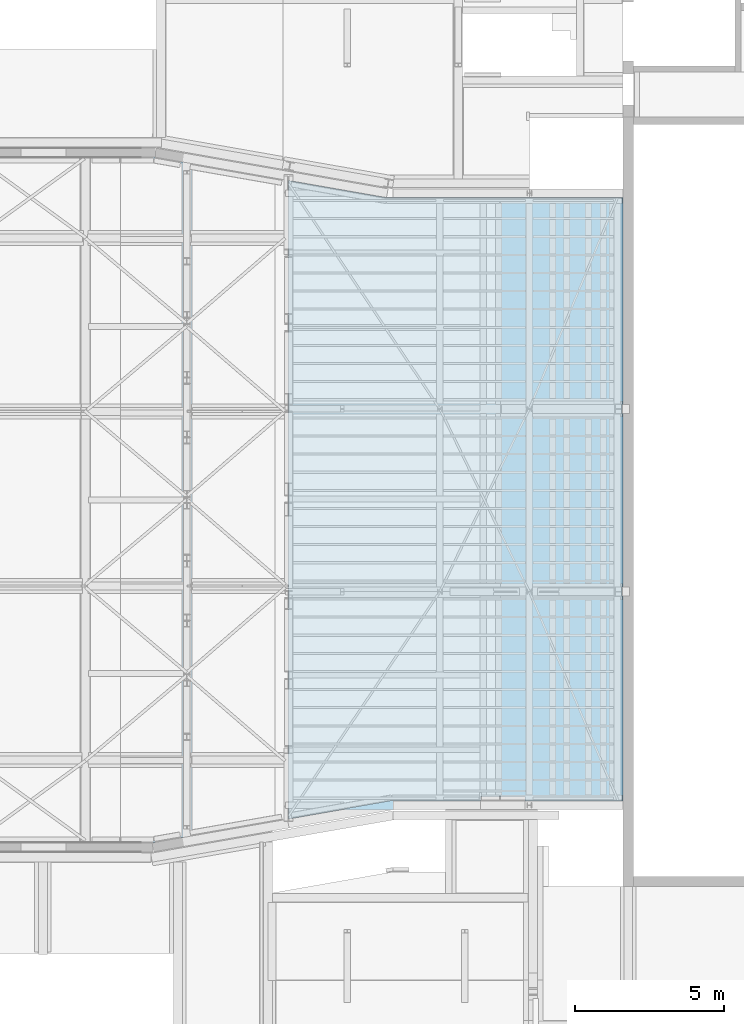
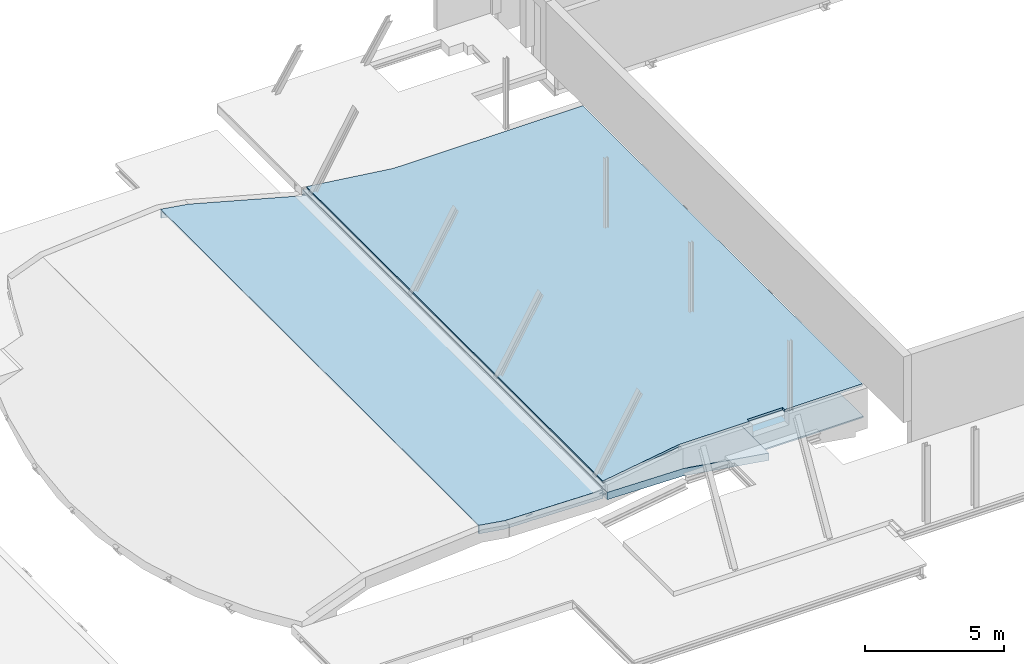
# One storey, part 48 of 50: 4 slabs.
"""IFC2X3 building model written with IfcOpenShell, lengths in millimetres."""

from ifc_helpers import new_model, entity, si_unit, converted_unit, derived_unit, direction, frame, origin, place, context, subcontext, project, spatial, faceted_brep, material, type_object, element, save


model = new_model("IFC2X3")

# Units and contexts
model_context = context("Model", 3, precision=0.01, world=origin(), true_north=direction((6.12303176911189e-17, 1.0)))
body_context = subcontext(model_context, "Body", "Model", "MODEL_VIEW")
ifc_project = project(units=[si_unit("LENGTHUNIT", "METRE", prefix="MILLI"), si_unit("AREAUNIT", "SQUARE_METRE", prefix="MILLI"), si_unit("VOLUMEUNIT", "CUBIC_METRE"), converted_unit("PLANEANGLEUNIT", "DEGREE", entity("IfcRatioMeasure", 0.0174532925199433), si_unit("PLANEANGLEUNIT", "RADIAN"), dimensions=[0, 0, 0, 0, 0, 0, 0]), si_unit("MASSUNIT", "GRAM", prefix="KILO"), derived_unit("MASSDENSITYUNIT", [(si_unit("MASSUNIT", "GRAM", prefix="KILO"), 1), (si_unit("LENGTHUNIT", "METRE"), -3)]), derived_unit("MOMENTOFINERTIAUNIT", [(si_unit("LENGTHUNIT", "METRE"), 4)]), si_unit("TIMEUNIT", "SECOND"), si_unit("FREQUENCYUNIT", "HERTZ"), si_unit("THERMODYNAMICTEMPERATUREUNIT", "DEGREE_CELSIUS"), derived_unit("THERMALTRANSMITTANCEUNIT", [(si_unit("MASSUNIT", "GRAM", prefix="KILO"), 1), (si_unit("THERMODYNAMICTEMPERATUREUNIT", "KELVIN"), -1), (si_unit("TIMEUNIT", "SECOND"), -3)]), derived_unit("VOLUMETRICFLOWRATEUNIT", [(si_unit("LENGTHUNIT", "METRE"), 3), (si_unit("TIMEUNIT", "SECOND"), -1)]), si_unit("ELECTRICCURRENTUNIT", "AMPERE"), si_unit("ELECTRICVOLTAGEUNIT", "VOLT"), si_unit("POWERUNIT", "WATT"), si_unit("FORCEUNIT", "NEWTON", prefix="KILO"), si_unit("ILLUMINANCEUNIT", "LUX"), si_unit("LUMINOUSFLUXUNIT", "LUMEN"), si_unit("LUMINOUSINTENSITYUNIT", "CANDELA"), derived_unit("USERDEFINED", [(si_unit("MASSUNIT", "GRAM", prefix="KILO"), -1), (si_unit("LENGTHUNIT", "METRE"), -2), (si_unit("TIMEUNIT", "SECOND"), 3), (si_unit("LUMINOUSFLUXUNIT", "LUMEN"), 1)]), derived_unit("LINEARVELOCITYUNIT", [(si_unit("LENGTHUNIT", "METRE"), 1), (si_unit("TIMEUNIT", "SECOND"), -1)]), si_unit("PRESSUREUNIT", "PASCAL"), derived_unit("USERDEFINED", [(si_unit("LENGTHUNIT", "METRE"), -2), (si_unit("MASSUNIT", "GRAM", prefix="KILO"), 1), (si_unit("TIMEUNIT", "SECOND"), -2)]), derived_unit("LINEARFORCEUNIT", [(si_unit("MASSUNIT", "GRAM", prefix="KILO"), 1), (si_unit("LENGTHUNIT", "METRE"), 1), (si_unit("TIMEUNIT", "SECOND"), -2), (si_unit("LENGTHUNIT", "METRE"), -1)]), derived_unit("PLANARFORCEUNIT", [(si_unit("MASSUNIT", "GRAM", prefix="KILO"), 1), (si_unit("LENGTHUNIT", "METRE"), 1), (si_unit("TIMEUNIT", "SECOND"), -2), (si_unit("LENGTHUNIT", "METRE"), -2)])], contexts=[model_context])

# Site, building, storey
site_placement = place(None, origin())
site = spatial("IfcSite", under=ifc_project, at=site_placement, Name="Theater aan de Parade", CompositionType="ELEMENT")
building_placement = place(site_placement, origin())
building = spatial("IfcBuilding", under=site, at=building_placement, Name="Theater aan de Parade", CompositionType="ELEMENT")
storey_placement = place(building_placement, frame((0.0, 0.0, 15820.0)))
storey = spatial("IfcBuildingStorey", under=building, at=storey_placement, Name="04 vierde verdieping", CompositionType="ELEMENT", Elevation=15820.0)

# Slabs
ifc_material = material(Name="00_PBT_MAT_beton t.p.g._C30/37")
slab_type_1 = type_object("IfcSlabType", Name="Floor:28_PBT_FL_druklaag_d=50 (=370)_C30/37", PredefinedType="FLOOR")
slab_1_placement = place(storey_placement, origin())
element("IfcSlab", 1, at=slab_1_placement, inside=storey, type_object=slab_type_1, material=ifc_material, Name="Floor:28_PBT_FL_druklaag_d=50 (=370)_C30/37", ObjectType="Floor:28_PBT_FL_druklaag_d=50 (=370)_C30/37", PredefinedType="FLOOR", context=body_context, shape_type="Brep", body=[
    faceted_brep([(52570.0, 21153.2598512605, 1370.21781557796), (52570.0, 43701.7401521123, 1370.21781863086), (51665.657972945, 43860.0, 1513.45157536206), (50514.5655519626, 43860.0, 1695.76677291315), (50514.5655519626, 43910.0, 1695.76677291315), (51670.0, 43910.0, 1512.76386557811), (52722.7931876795, 43725.7611921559, 1346.01774294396), (52722.7931876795, 32113.9669114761, 1346.01774294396), (52722.7931876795, 21129.2388079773, 1346.01774294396), (51584.2857135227, 20930.0, 1526.33967998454), (50514.5655519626, 20930.0, 1695.76677291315), (50514.5655519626, 20980.0, 1695.76677291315), (51579.943687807, 20980.0, 1527.02738955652), (55973.3747485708, 41348.5633673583, 831.176007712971), (56143.3747485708, 43127.1594189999, 804.250642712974), (55973.3747485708, 41048.5633673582, 831.176007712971), (55973.3747292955, 43106.1495711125, 831.176010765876), (52910.0, 41048.5633673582, 1316.36708557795), (52910.0, 41348.5633673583, 1316.36708557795), (52887.0626897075, 43697.014029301, 1320.0), (52910.0, 35539.5120085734, 1316.36708872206), (52910.0, 35239.5120085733, 1316.36708557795), (52910.0, 29687.9879914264, 1316.36708872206), (52887.0626897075, 21157.9859708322, 1320.0), (52910.0, 29387.9879914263, 1316.36708557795), (55973.3747485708, 29387.9879914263, 831.176007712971), (52910.0, 23858.9366326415, 1316.36708872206), (52910.0, 23558.9366326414, 1316.36708557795), (55973.3747485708, 23558.9366326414, 831.176007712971), (52910.0, 21212.7598478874, 1316.36708863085), (52925.3319498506, 23858.9366326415, 1637.92771408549), (52925.3319498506, 23558.9366326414, 1637.92771408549), (55973.3747485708, 23558.9366326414, 1155.1649794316), (55973.3747485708, 21748.8504322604, 1155.1649794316), (52910.0, 21212.7598512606, 1640.35605729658), (52910.0, 41048.5633673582, 1640.35605729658), (55973.3747485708, 41048.5633673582, 1155.1649794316), (55973.3747485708, 35539.5120085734, 1155.1649794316), (52945.0857164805, 35539.5120085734, 1634.79902363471), (52945.0857164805, 35239.5120085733, 1634.7990236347), (55973.3747485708, 35239.5120085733, 1155.1649794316), (55973.3747485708, 29687.9879914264, 1155.1649794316), (52945.0857164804, 29687.9879914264, 1634.79902363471), (52945.0857164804, 29387.9879914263, 1634.79902363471), (55973.3747485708, 29387.9879914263, 1155.1649794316), (55973.3747485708, 23858.9366326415, 1155.1649794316), (55973.3747485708, 43106.1495677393, 1155.1649794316), (55973.3747485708, 41348.5633673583, 1155.1649794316), (52910.0, 41348.5633673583, 1640.35605729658), (52910.0, 43642.2401487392, 1640.35605729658), (52570.0, 21153.2598512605, 1694.20678729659), (51579.9437070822, 20980.0, 1851.01635822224), (50514.5655519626, 20980.0, 2019.75574463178), (50514.5655519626, 43860.0, 2019.75574463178), (51665.6579927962, 43860.0, 1837.44054393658), (52570.0, 43701.7401487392, 1694.20678729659), (52910.0, 43642.2401487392, 1316.36721405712), (52910.0, 23858.9366326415, 1541.12559249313), (52910.0, 29387.9879914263, 1413.27652806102), (52910.0, 29687.9879914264, 1413.27652806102), (52910.0, 35239.5120085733, 1413.27652806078), (52910.0, 35539.5120085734, 1413.27652806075), (52910.0, 23558.9366326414, 1541.12559249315), (55973.3747485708, 21748.8504322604, 831.176136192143), (55973.3747485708, 23858.9366326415, 831.176136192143), (55973.3747485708, 35239.5120085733, 831.176007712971), (55973.3747485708, 29687.9879914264, 831.176136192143), (55973.3747485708, 35539.5120085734, 831.176136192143), (56143.3747485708, 21727.8405811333, 804.250642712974), (50514.5655519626, 20930.0, 2070.37887290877), (51584.2857135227, 20930.0, 1900.95177998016), (55684.0135116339, 21647.4523646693, 1251.61844254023), (56136.3747485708, 21726.6155811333, 1179.9714342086), (56136.3747485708, 43128.3844189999, 1179.97143420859), (55684.013511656, 43207.54763546, 1251.61844253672), (51670.0, 43910.0, 1887.37596557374), (50514.5655519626, 43910.0, 2070.37887290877), (56143.3747485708, 43127.1594189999, 1065.0), (56143.3747485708, 21727.8405811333, 1065.0), (52889.1873742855, 43696.6422094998, 1320.0), (52889.1873742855, 43696.6422094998, 1340.5), (52771.9373742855, 43717.1609594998, 1340.5), (52766.8802845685, 43718.0459502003, 1342.93536605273), (52761.8231948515, 43718.9309409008, 1345.37073210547), (52756.3255595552, 43719.8930270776, 1348.01825372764), (52750.8279242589, 43720.8551132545, 1350.66577534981), (52748.7004964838, 43721.2274131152, 1356.74561462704), (52746.8189353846, 43721.5566863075, 1362.12280731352), (52744.9373742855, 43721.8859594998, 1367.5), (52744.9373742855, 43721.8859594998, 1592.5), (52747.37274036, 43721.4597704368, 1597.55708976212), (52749.8081064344, 43721.0335813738, 1602.61417952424), (52752.4556280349, 43720.5702650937, 1608.11181477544), (52755.1031496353, 43720.1069488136, 1613.60945002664), (52761.1829890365, 43719.0429769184, 1615.73687784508), (52766.560181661, 43718.1019682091, 1617.61843892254), (52771.9373742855, 43717.1609594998, 1619.5), (52889.1873742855, 43696.6422094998, 1619.5), (52889.1873742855, 43696.6422094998, 1640.0), (52589.1873742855, 43749.1422094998, 1640.0), (52589.1873742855, 43749.1422094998, 1619.5), (52706.4373742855, 43728.6234594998, 1619.5), (52711.4944640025, 43727.7384687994, 1617.06463394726), (52716.5515537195, 43726.8534780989, 1614.62926789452), (52722.0491890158, 43725.891391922, 1611.98174627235), (52727.5468243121, 43724.9293057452, 1609.33422465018), (52729.6742520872, 43724.5570058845, 1603.25438537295), (52731.5558131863, 43724.2277326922, 1597.87719268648), (52733.4373742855, 43723.8984594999, 1592.5), (52733.4373742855, 43723.8984594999, 1367.5), (52732.0338973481, 43724.1440679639, 1361.50632585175), (52730.6304204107, 43724.3896764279, 1355.51265170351), (52726.4565615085, 43725.1201017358, 1350.45596769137), (56136.3747485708, 43128.3844189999, 1118.0), (56133.9393824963, 43128.810608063, 1112.94291023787), (56131.5040164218, 43129.236797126, 1107.88582047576), (56128.8564948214, 43129.700113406, 1102.38818522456), (56126.208973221, 43130.1634296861, 1096.89054997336), (56120.1291338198, 43131.2274015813, 1094.76312215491), (56114.7519411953, 43132.1684102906, 1092.88156107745), (56109.3747485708, 43133.1094189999, 1091.0), (55993.3747485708, 43153.4094189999, 1091.0), (55993.3747485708, 43153.4094189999, 1065.0), (55993.3747485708, 21701.5905811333, 1065.0), (55993.3747485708, 21701.5905811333, 1091.0), (56109.3747485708, 21721.8905811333, 1091.0), (56114.6521110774, 21722.8141195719, 1093.54144383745), (56119.9294735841, 21723.7376580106, 1096.0828876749), (56125.2068360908, 21724.6611964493, 1098.62433151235), (56130.4841985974, 21725.5847348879, 1101.16577534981), (56133.4294735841, 21726.1001580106, 1109.5828876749), (56136.3747485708, 21726.6155811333, 1118.0), (52726.4565615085, 21129.8798983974, 1350.45596769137), (52730.6304204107, 21130.6103237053, 1355.51265170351), (52732.0338973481, 21130.8559321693, 1361.50632585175), (52733.4373742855, 21131.1015406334, 1367.5), (52733.4373742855, 21131.1015406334, 1592.5), (52731.002008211, 21130.6753515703, 1597.55708976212), (52728.5666421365, 21130.2491625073, 1602.61417952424), (52725.9191205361, 21129.7858462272, 1608.11181477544), (52723.2715989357, 21129.3225299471, 1613.60945002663), (52714.8544866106, 21127.8495352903, 1616.55472501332), (52706.4373742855, 21126.3765406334, 1619.5), (52589.1873742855, 21105.8577906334, 1619.5), (52589.1873742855, 21105.8577906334, 1640.0), (52889.1873742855, 21158.3577906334, 1640.0), (52889.1873742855, 21158.3577906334, 1619.5), (52771.9373742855, 21137.8390406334, 1619.5), (52766.8802845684, 21136.9540499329, 1617.06463394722), (52761.8231948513, 21136.0690592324, 1614.62926789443), (52756.3255595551, 21135.1069730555, 1611.98174627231), (52750.8279242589, 21134.1448868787, 1609.33422465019), (52747.8826492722, 21133.629463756, 1600.91711232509), (52744.9373742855, 21133.1140406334, 1592.5), (52744.9373742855, 21133.1140406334, 1367.5), (52747.37274036, 21133.5402296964, 1362.44291023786), (52750.0202619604, 21134.0035459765, 1356.94527498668), (52752.5617057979, 21134.448298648, 1351.66791248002), (52755.1031496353, 21134.8930513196, 1346.39054997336), (52763.5202619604, 21136.3660459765, 1343.44527498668), (52771.9373742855, 21137.8390406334, 1340.5), (52889.1873742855, 21158.3577906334, 1340.5), (52889.1873742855, 21158.3577906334, 1320.0), (52771.9373742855, 32105.321190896, 1619.5), (52706.4373742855, 26932.2736808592, 1619.5), (52706.4373742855, 32738.170821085, 1619.5), (52755.3003515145, 31547.0648507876, 1613.76521745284), (52750.981184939, 28104.3989065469, 1609.52463297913), (52751.0434222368, 34995.7805471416, 1609.60095809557), (52765.8020894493, 37528.814332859, 1618.79369277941), (52763.3775168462, 29695.0796474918, 1618.10720290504), (52754.6597021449, 37009.1671927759, 1613.24806124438), (52745.608182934, 29841.9597513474, 1598.48111049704), (52747.7599507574, 31718.990235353, 1604.5188265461), (52744.9373742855, 32745.0085936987, 1592.5), (52744.9373742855, 26939.5922679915, 1592.5), (52759.2327716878, 36833.7663998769, 1616.32421190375), (52744.9373742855, 32744.8383925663, 1367.5), (52750.8274445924, 31615.01943862, 1350.66637685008), (52755.1001747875, 28124.5579214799, 1346.39292267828), (52746.4108311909, 29949.7199406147, 1358.70252322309), (52751.3708081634, 37118.1938597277, 1350.006676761), (52755.0964722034, 35114.7598390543, 1346.39587677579), (52760.2120839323, 31623.22313064, 1343.17886585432), (52771.9373742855, 32750.3290950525, 1340.5), (52766.1356874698, 29846.6847511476, 1341.13069151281), (52745.6980683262, 37578.8464211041, 1361.13613146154), (52748.2261987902, 36893.8652703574, 1354.5856608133), (52771.9373742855, 26944.0840678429, 1340.5), (52728.9838190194, 34814.6549450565, 1352.64544413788), (52733.4373742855, 32742.895821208, 1367.5), (52732.4120338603, 36814.9116149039, 1360.12998914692), (52732.4439119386, 28152.5330820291, 1360.24327902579), (52733.4373742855, 32112.1041789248, 1592.5), (52727.70309844, 31547.219995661, 1609.13637509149), (52732.0447915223, 29691.3081239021, 1601.05921622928), (52732.7294512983, 37527.7935548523, 1598.64220533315), (52723.4604595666, 28102.9093281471, 1613.45744658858), (52718.4514188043, 31718.2714453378, 1616.67980012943), (52723.5364081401, 34998.3926175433, 1613.39552682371), (52712.4166849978, 29835.2222509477, 1618.8296001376), (52727.1828580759, 37004.4330153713, 1609.78076683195), (52730.2579326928, 36841.2937430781, 1605.21145141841), (56109.3747485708, 33334.2722390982, 1091.0), (56130.2987471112, 28331.2887548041, 1100.93581865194), (56126.2077998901, 31569.9485120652, 1096.88961432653), (56118.1117661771, 30491.192757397, 1092.45270027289), (56135.7222147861, 28631.0662244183, 1112.09991321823), (56133.3783679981, 31797.701168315, 1105.63770836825), (56130.2161712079, 34849.5096567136, 1100.83506182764), (56135.5198713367, 35834.8168384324, 1111.25963238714), (56136.3747485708, 33338.409861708, 1118.0)], [[[0, 1, 2, 3, 4, 5, 6, 7, 8, 9, 10, 11, 12]], [[0, 6, 7]], [[6, 0, 1]], [[0, 7, 8]], [[0, 8, 9]], [[12, 0, 9]], [[1, 5, 6]], [[5, 1, 2]], [[5, 2, 4]], [[4, 2, 3]], [[9, 10, 12]], [[12, 10, 11]], [[13, 14, 15]], [[14, 13, 16]], [[15, 17, 13]], [[18, 13, 17]], [[14, 16, 19]], [[19, 18, 17]], [[19, 17, 20]], [[19, 20, 21]], [[21, 22, 19]], [[22, 23, 19]], [[22, 24, 23]], [[22, 25, 24]], [[26, 23, 24]], [[27, 23, 26]], [[26, 28, 27]], [[23, 27, 29]], [[30, 31, 32, 33, 34, 35, 36, 37, 38, 39, 40, 41, 42, 43, 44, 45]], [[46, 47, 48, 49]], [[50, 51, 52, 53, 54, 55]], [[48, 18, 56, 49]], [[57, 58, 59, 21, 60, 61, 17, 35, 34, 62]], [[32, 28, 63, 33]], [[44, 25, 64, 45]], [[40, 65, 66, 41]], [[36, 15, 67, 37]], [[13, 47, 46]], [[64, 68, 28]], [[63, 68, 23]], [[28, 68, 63]], [[68, 64, 25]], [[68, 25, 66]], [[26, 64, 28]], [[68, 66, 14]], [[67, 14, 65]], [[15, 14, 67]], [[65, 21, 67]], [[14, 66, 65]], [[66, 25, 22]], [[23, 29, 63]], [[67, 21, 20]], [[18, 19, 56]], [[56, 19, 16]], [[69, 70, 71, 72, 73, 74, 75, 76]], [[10, 9, 70, 69]], [[11, 10, 69, 76, 4, 3, 53, 52]], [[5, 4, 76, 75]], [[68, 14, 77, 78]], [[79, 80, 81, 82, 83, 84, 85, 86, 87, 88, 89, 90, 91, 92, 93, 94, 95, 96, 97, 98, 99, 100, 101, 102, 103, 104, 105, 106, 107, 108, 109, 110, 111, 112, 6, 5, 75, 74, 73, 113, 114, 115, 116, 117, 118, 119, 120, 121, 122, 77, 14, 19]], [[68, 78, 123, 124, 125, 126, 127, 128, 129, 130, 131, 72, 71, 70, 9, 8, 132, 133, 134, 135, 136, 137, 138, 139, 140, 141, 142, 143, 144, 145, 146, 147, 148, 149, 150, 151, 152, 153, 154, 155, 156, 157, 158, 159, 160, 161, 162, 23]], [[24, 58, 26]], [[27, 62, 29]], [[17, 61, 20]], [[59, 22, 21]], [[57, 26, 58]], [[29, 62, 34]], [[56, 16, 46, 49]], [[46, 16, 13]], [[29, 34, 33, 63]], [[50, 0, 12, 51]], [[51, 12, 11]], [[11, 52, 51]], [[54, 53, 3, 2]], [[55, 2, 1]], [[2, 55, 54]], [[55, 1, 0]], [[0, 50, 55]], [[145, 98, 97, 146]], [[162, 161, 80, 79]], [[146, 97, 96, 163, 147]], [[100, 143, 142, 164, 165, 101]], [[166, 150, 149]], [[167, 166, 168]], [[169, 170, 163]], [[171, 168, 166]], [[172, 152, 173]], [[91, 173, 168]], [[168, 173, 167]], [[147, 163, 148]], [[90, 174, 172]], [[170, 148, 163]], [[152, 167, 173]], [[175, 172, 174]], [[169, 96, 95, 94]], [[176, 170, 169]], [[149, 148, 170]], [[149, 170, 166]], [[96, 169, 163]], [[176, 169, 94]], [[93, 176, 94]], [[170, 176, 166]], [[167, 150, 166]], [[90, 173, 91]], [[90, 89, 174]], [[150, 167, 151]], [[171, 166, 176]], [[93, 92, 171]], [[176, 93, 171]], [[171, 92, 168]], [[152, 151, 167]], [[175, 153, 152]], [[152, 172, 175]], [[90, 172, 173]], [[91, 168, 92]], [[88, 177, 154, 153, 175, 174, 89]], [[157, 156, 178]], [[158, 157, 179]], [[180, 178, 156]], [[178, 181, 182]], [[159, 179, 183]], [[83, 183, 182]], [[182, 183, 179]], [[155, 177, 180]], [[82, 184, 185]], [[180, 186, 187]], [[184, 82, 81]], [[188, 185, 184]], [[180, 156, 155]], [[186, 88, 87, 86]], [[155, 154, 177]], [[186, 180, 177]], [[88, 186, 177]], [[187, 186, 86]], [[85, 187, 86]], [[180, 187, 178]], [[179, 157, 178]], [[182, 179, 178]], [[83, 82, 183]], [[185, 159, 183]], [[181, 178, 187]], [[85, 84, 181]], [[159, 158, 179]], [[188, 160, 159]], [[159, 185, 188]], [[82, 185, 183]], [[187, 85, 181]], [[181, 84, 182]], [[83, 182, 84]], [[80, 161, 160, 188, 184, 81]], [[23, 162, 79, 19]], [[7, 6, 112]], [[132, 8, 7]], [[111, 189, 112]], [[7, 112, 189]], [[190, 191, 109]], [[191, 189, 111]], [[189, 133, 132]], [[192, 135, 134, 133]], [[191, 111, 110, 109]], [[189, 191, 192]], [[192, 191, 190]], [[135, 192, 190]], [[189, 132, 7]], [[133, 189, 192]], [[108, 193, 136, 135, 190, 109]], [[194, 138, 195]], [[195, 137, 193]], [[196, 195, 193]], [[136, 193, 137]], [[141, 197, 198]], [[103, 198, 199]], [[102, 165, 200]], [[201, 199, 194]], [[197, 194, 199]], [[199, 198, 197]], [[200, 141, 198]], [[164, 200, 165]], [[196, 108, 107, 106]], [[202, 195, 196]], [[138, 137, 195]], [[197, 139, 194]], [[108, 196, 193]], [[202, 196, 106]], [[105, 202, 106]], [[195, 202, 194]], [[102, 198, 103]], [[139, 138, 194]], [[102, 101, 165]], [[139, 197, 140]], [[201, 194, 202]], [[105, 104, 201]], [[202, 105, 201]], [[201, 104, 199]], [[141, 140, 197]], [[164, 142, 141]], [[141, 200, 164]], [[102, 200, 198]], [[103, 199, 104]], [[144, 143, 100, 99]], [[144, 99, 98, 145]], [[78, 77, 122, 123]], [[124, 123, 122, 121]], [[124, 121, 120, 203, 125]], [[204, 128, 205]], [[206, 118, 205]], [[206, 126, 203]], [[203, 120, 119]], [[207, 130, 208]], [[115, 208, 209]], [[209, 208, 204]], [[117, 205, 118]], [[210, 211, 207]], [[127, 206, 205]], [[204, 205, 209]], [[210, 113, 211]], [[126, 125, 203]], [[207, 131, 130]], [[129, 204, 130]], [[203, 119, 206]], [[206, 119, 118]], [[130, 204, 208]], [[128, 127, 205]], [[114, 113, 210, 115]], [[128, 204, 129]], [[205, 117, 209]], [[209, 117, 116, 115]], [[210, 207, 208]], [[131, 207, 211]], [[115, 210, 208]], [[206, 127, 126]], [[72, 131, 211, 113, 73]], [[57, 62, 31, 30]], [[45, 64, 26, 57, 30]], [[28, 32, 31, 62, 27]], [[59, 58, 43, 42]], [[61, 60, 39, 38]], [[41, 66, 22, 59, 42]], [[25, 44, 43, 58, 24]], [[37, 67, 20, 61, 38]], [[65, 40, 39, 60, 21]], [[47, 13, 18, 48]], [[15, 36, 35, 17]]]),
])
slab_type_2 = type_object("IfcSlabType", Name="Floor:28_PBT_FL_druklaag_d=60 (=320)_C30/37", PredefinedType="FLOOR")
slab_2_placement = place(storey_placement, origin())
element("IfcSlab", 2, at=slab_2_placement, inside=storey, type_object=slab_type_2, material=ifc_material, Name="Floor:28_PBT_FL_druklaag_d=60 (=320)_C30/37", ObjectType="Floor:28_PBT_FL_druklaag_d=60 (=320)_C30/37", PredefinedType="FLOOR", context=body_context, shape_type="Brep", body=[
    faceted_brep([(56293.3747485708, 21754.0905809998, 1091.0), (56293.3747485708, 29176.916549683, 1091.0), (56293.3747485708, 29176.916549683, 1129.81256058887), (56293.3747485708, 29516.916549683, 1129.8125605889), (56293.3747485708, 29516.916549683, 1091.0), (56293.3747485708, 35302.499995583, 1091.0), (56293.3747485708, 35302.499995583, 1129.81256058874), (56293.3747485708, 35642.499995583, 1129.81256058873), (56293.3747485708, 35642.499995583, 1091.0), (56293.3747485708, 43100.9094189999, 1091.0), (56293.3747485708, 43100.9094189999, 1168.34633075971), (56293.3747485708, 21754.0905809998, 1168.34633075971), (56293.3747485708, 35642.499995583, 1065.0), (56293.3747485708, 35642.499995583, 904.980615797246), (56293.3747485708, 43100.9094189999, 905.105395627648), (56293.3747485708, 43100.9094189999, 1065.0), (56293.3747485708, 29516.916549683, 1065.0), (56293.3747485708, 29516.916549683, 904.980615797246), (56293.3747485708, 35302.499995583, 905.105395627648), (56293.3747485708, 35302.499995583, 1065.0), (56293.3747485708, 29176.916549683, 904.980615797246), (56293.3747485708, 29176.916549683, 1065.0), (56293.3747485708, 21754.0905809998, 1065.0), (56293.3747485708, 21541.2295537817, 1065.0), (56293.3747485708, 21541.2295537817, 1091.0), (56293.3747485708, 43405.4685265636, 1091.0), (56293.3747485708, 43405.4685265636, 1065.0), (63243.3747485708, 22340.0, -195.791659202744), (63243.3747485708, 22040.0, -195.791659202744), (59667.4806146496, 22040.0, 370.57454525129), (56143.3747485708, 21423.2814734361, 928.738290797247), (63243.3747485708, 29516.916549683, -195.791659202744), (63243.3747485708, 29176.916549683, -195.791659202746), (56293.3560282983, 21754.0873049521, 904.983580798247), (59641.4092918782, 22340.0, 374.70383867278), (63243.3747485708, 42850.0, -195.791659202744), (63243.3747485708, 42550.0, -195.791659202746), (59441.4098511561, 42550.0032760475, 406.380650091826), (59467.4806146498, 42850.0, 402.251445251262), (63243.3747485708, 35642.499995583, -195.791659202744), (63243.3747485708, 35302.499995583, -195.791659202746), (56143.3747485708, 43431.7185265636, 928.738290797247), (56143.3747485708, 21541.2295537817, 1252.7271340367), (56143.3747485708, 21423.2814734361, 1252.7271340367), (59667.4806146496, 22040.0, 694.563388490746), (59804.9125828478, 22040.0, 672.796294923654), (63243.3747485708, 22040.0, 128.197184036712), (63243.3747485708, 42850.0, 128.197184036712), (59467.4806146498, 42850.0, 726.240288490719), (56150.3747485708, 43430.4935265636, 1251.61844253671), (56150.3747485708, 21541.2295537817, 1251.61844253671), (56143.3747485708, 43431.7185265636, 1065.0), (56143.3747485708, 21541.2295537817, 1065.0), (63243.3747485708, 35642.499995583, 67.5740557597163), (63243.3747485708, 42550.0, 67.5740557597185), (63243.3747485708, 22340.0, 67.5740557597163), (63243.3747485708, 29176.916549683, 67.5740557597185), (63243.3747485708, 29516.916549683, 67.5740557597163), (63243.3747485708, 35302.499995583, 67.5740557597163), (56299.3285434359, 29516.916549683, 1167.4033419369), (56299.3285434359, 29176.916549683, 1167.4033419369), (59641.4285714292, 22340.0, 638.0665000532), (59441.4285714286, 42550.0, 669.74340005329), (56299.3285434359, 35642.499995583, 1167.4033419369), (56299.3285434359, 35302.499995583, 1167.40334193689), (56177.3747485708, 43425.7685265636, 1091.0), (56172.3176588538, 43426.6535172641, 1093.43536605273), (56166.8200235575, 43427.615603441, 1096.0828876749), (56161.5426610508, 43428.5391418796, 1098.62433151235), (56156.2652985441, 43429.4626803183, 1101.16577534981), (56153.3200235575, 43429.978103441, 1109.5828876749), (56150.3747485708, 43430.4935265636, 1118.0), (56177.3747485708, 21541.2295537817, 1091.0), (56150.3747485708, 21541.2295537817, 1118.0), (56152.539902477, 21541.2295537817, 1112.77285607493), (56154.7050563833, 21541.2295537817, 1107.54571214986), (56156.493960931, 21541.2295537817, 1103.22691452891), (56158.2828654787, 21541.2295537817, 1098.90811690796), (56162.6016630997, 21541.2295537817, 1097.11921236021), (56166.9204607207, 21541.2295537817, 1095.33030781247), (56172.1476046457, 21541.2295537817, 1093.16515390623), (56150.3747485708, 31818.8561450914, 1118.0), (56157.7858821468, 27557.2308249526, 1099.41838779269), (56155.2092336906, 32031.0691274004, 1102.58280342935), (56177.3747485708, 31812.4882087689, 1091.0), (56169.4748692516, 29177.1155895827, 1092.18155878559), (56161.9575520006, 30076.6189048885, 1095.83448511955), (56159.1489436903, 36937.563121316, 1098.07965772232), (56151.7671321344, 29210.4838335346, 1109.44137975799)], [[[0, 1, 2, 3, 4, 5, 6, 7, 8, 9, 10, 11]], [[12, 13, 14, 15]], [[16, 17, 18, 19]], [[20, 21, 22]], [[23, 24, 0, 22]], [[21, 1, 4, 16]], [[5, 8, 12, 19]], [[15, 9, 25, 26]], [[27, 28, 29, 30, 17, 31, 32, 20, 33, 34]], [[35, 36, 37, 38]], [[39, 40, 18]], [[18, 13, 39]], [[17, 30, 18]], [[18, 30, 41]], [[38, 37, 14]], [[14, 13, 41]], [[41, 13, 18]], [[14, 41, 38]], [[42, 43, 44, 45, 46, 47, 48, 49, 50]], [[51, 41, 30, 43, 42, 52]], [[53, 54, 36, 35, 47, 46, 28, 27, 55, 56, 32, 31, 57, 58, 40, 39]], [[59, 60, 56, 55, 61, 11, 10, 62, 54, 53, 63, 64, 58, 57]], [[62, 10, 9, 15, 14, 37]], [[37, 36, 54]], [[54, 62, 37]], [[34, 61, 55, 27]], [[33, 61, 34]], [[22, 0, 11, 61, 33]], [[22, 33, 20]], [[7, 6, 64, 63]], [[3, 2, 60, 59]], [[39, 13, 12, 8, 7, 63, 53]], [[40, 58, 64, 6, 5, 19, 18]], [[31, 17, 16, 4, 3, 59, 57]], [[32, 56, 60, 2, 1, 21, 20]], [[41, 51, 26, 25, 65, 66, 67, 68, 69, 70, 71, 49, 48, 38]], [[47, 35, 38, 48]], [[28, 46, 45, 44, 29]], [[29, 44, 43, 30]], [[72, 24, 23, 52, 42, 50, 73, 74, 75, 76, 77, 78, 79, 80]], [[50, 49, 71, 81, 73]], [[82, 76, 83]], [[65, 84, 66]], [[74, 73, 81]], [[85, 66, 84]], [[86, 85, 79]], [[87, 83, 69]], [[86, 82, 87]], [[75, 83, 76]], [[83, 87, 82]], [[74, 81, 88]], [[85, 72, 80, 79]], [[77, 82, 78]], [[66, 85, 67]], [[70, 81, 71]], [[70, 69, 83]], [[78, 82, 86]], [[67, 85, 86]], [[88, 70, 83]], [[74, 88, 75]], [[70, 88, 81]], [[83, 75, 88]], [[86, 79, 78]], [[87, 69, 68, 67]], [[67, 86, 87]], [[72, 85, 84]], [[76, 82, 77]], [[8, 5, 4, 1, 0, 24, 72, 84, 65, 25, 9]], [[51, 52, 23, 22, 21, 16, 19, 12, 15, 26]]]),
])
slab_type_3 = type_object("IfcSlabType", Name="Floor:28_PBT_FL_druklaag_d=60 (=320)_C30/37", PredefinedType="FLOOR")
slab_3_placement = place(storey_placement, origin())
element("IfcSlab", 3, at=slab_3_placement, inside=storey, type_object=slab_type_3, material=ifc_material, Name="Floor:28_PBT_FL_druklaag_d=60 (=320)_C30/37", ObjectType="Floor:28_PBT_FL_druklaag_d=60 (=320)_C30/37", PredefinedType="FLOOR", context=body_context, shape_type="Brep", body=[
    faceted_brep([(63586.4226468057, 29176.916549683, -195.0), (63586.4226468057, 29516.916549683, -195.0), (67331.2561009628, 29516.916549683, -195.0), (67331.2561009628, 29176.916549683, -195.0), (67356.2561009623, 42550.0, 125.0), (63243.3747485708, 42550.0, 125.0), (63243.3747485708, 22340.0, 125.0), (67356.2561009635, 22340.0, 125.0), (67356.2561009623, 42550.0, 65.0), (63243.3747485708, 42550.0, 65.0), (67356.2561009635, 22340.0, 65.0), (63243.3747485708, 22340.0, 65.0), (67331.2561009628, 35302.499995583, 65.0), (67331.2561009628, 35642.499995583, 65.0), (63586.4226468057, 35642.499995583, 65.0), (63586.4226468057, 35302.499995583, 65.0), (67331.2561009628, 29176.916549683, 65.0), (67331.2561009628, 29516.916549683, 65.0), (63586.4226468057, 29516.916549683, 65.0), (63586.4226468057, 29176.916549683, 65.0), (67331.2561009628, 35302.499995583, -195.0), (67331.2561009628, 35642.499995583, -195.0), (63586.4226468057, 35642.499995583, -195.0), (63586.4226468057, 35302.499995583, -195.0)], [[[0, 1, 2, 3]], [[4, 5, 6, 7]], [[5, 4, 8, 9]], [[4, 7, 10, 8]], [[7, 6, 11, 10]], [[6, 5, 9, 11]], [[9, 8, 10, 11], [12, 13, 14, 15], [16, 17, 18, 19]], [[19, 18, 1, 0]], [[18, 17, 2, 1]], [[16, 19, 0, 3]], [[13, 12, 20, 21]], [[15, 14, 22, 23]], [[14, 13, 21, 22]], [[12, 15, 23, 20]], [[17, 16, 3, 2]], [[21, 20, 23, 22]]]),
])
slab_type_4 = type_object("IfcSlabType", Name="Floor:28_PBT_FL_beton t.p.g._d=100_C30/37", PredefinedType="FLOOR")
slab_4_placement = place(storey_placement, origin())
element("IfcSlab", 4, at=slab_4_placement, inside=storey, type_object=slab_type_4, material=ifc_material, Name="Floor:28_PBT_FL_beton t.p.g._d=100_C30/37", ObjectType="Floor:28_PBT_FL_beton t.p.g._d=100_C30/37", PredefinedType="FLOOR", context=body_context, shape_type="Brep", body=[
    faceted_brep([(59441.4285714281, 42550.0, 1470.0), (67326.2561009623, 42550.0, 1470.0), (67326.2561009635, 22340.0, 1470.0), (64076.0560364, 22340.0, 1470.0), (64076.0560364, 22485.0, 1470.0), (62586.0560364, 22485.0, 1470.0), (62586.0560364, 22340.0, 1470.0), (59641.4285714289, 22340.0, 1470.0), (56151.5871546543, 21729.2777520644, 1470.0), (56151.5871546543, 33341.3379978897, 1470.0), (56151.5871546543, 43125.7222479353, 1470.0), (67326.2561009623, 42550.0, 1570.0), (59441.4285714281, 42550.0, 1570.0), (56143.3747485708, 43127.1594189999, 1570.0), (56143.3747485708, 21727.8405809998, 1570.0), (59641.4285714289, 22340.0, 1570.0), (59654.454593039, 22340.0, 1570.0), (62586.0560364, 22340.0, 1570.0), (62586.0560364, 22485.0, 1570.0), (64076.0560364, 22485.0, 1570.0), (64076.0560364, 22340.0, 1570.0), (67326.2561009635, 22340.0, 1570.0), (56143.3747485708, 21727.8405809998, 1515.0), (56293.3747485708, 21754.0905809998, 1515.0), (56293.3747485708, 21754.0905809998, 1489.0), (56177.3747485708, 21733.7905809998, 1489.0), (56172.1146095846, 21732.8700566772, 1486.89296141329), (56166.8544705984, 21731.9495323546, 1484.78592282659), (56158.7349548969, 21730.5286171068, 1481.53351201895), (56155.1610547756, 21729.9031845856, 1475.76675600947), (56143.3747485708, 43127.1594189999, 1515.0), (56177.3747485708, 43121.2094189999, 1489.0), (56293.3747485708, 43100.9094189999, 1489.0), (56293.3747485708, 43100.9094189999, 1515.0), (56155.1581386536, 43125.0973257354, 1474.39963037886), (56158.7291226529, 43124.4724035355, 1478.79926075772), (56164.2412698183, 43123.5077777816, 1485.59050096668), (56171.8153584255, 43122.1823122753, 1487.55676202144), (56177.3747485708, 37315.3736285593, 1489.0), (56177.3747485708, 31509.5378381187, 1489.0), (56172.9312896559, 34412.3637074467, 1488.63185447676), (56167.8236654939, 33886.3558303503, 1487.25424344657), (56154.9676127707, 35796.2184808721, 1477.06387284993), (56160.5239270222, 35740.7635796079, 1483.09620376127)], [[[0, 1, 2, 3, 4, 5, 6, 7, 8, 9, 10]], [[11, 12, 13, 14, 15, 16, 17, 18, 19, 20, 21]], [[1, 0, 12, 11]], [[2, 1, 11, 21]], [[7, 6, 17, 16, 15]], [[3, 2, 21, 20]], [[8, 7, 15, 14, 22, 23, 24, 25, 26, 27, 28, 29]], [[30, 22, 14, 13]], [[31, 32, 33, 30, 13, 12, 0, 10, 34, 35, 36, 37]], [[24, 23, 33, 32]], [[23, 22, 30, 33]], [[32, 31, 38, 39, 25, 24]], [[26, 39, 40]], [[40, 37, 41]], [[37, 40, 38]], [[9, 29, 42]], [[36, 35, 43]], [[41, 36, 43]], [[28, 42, 29]], [[43, 27, 41]], [[9, 42, 10]], [[37, 36, 41]], [[39, 26, 25]], [[42, 43, 35]], [[27, 43, 28]], [[42, 35, 34, 10]], [[8, 29, 9]], [[37, 38, 31]], [[27, 26, 41]], [[40, 39, 38]], [[26, 40, 41]], [[42, 28, 43]], [[4, 3, 20, 19]], [[5, 4, 19, 18]], [[6, 5, 18, 17]]]),
])

save(model, "model.ifc")
